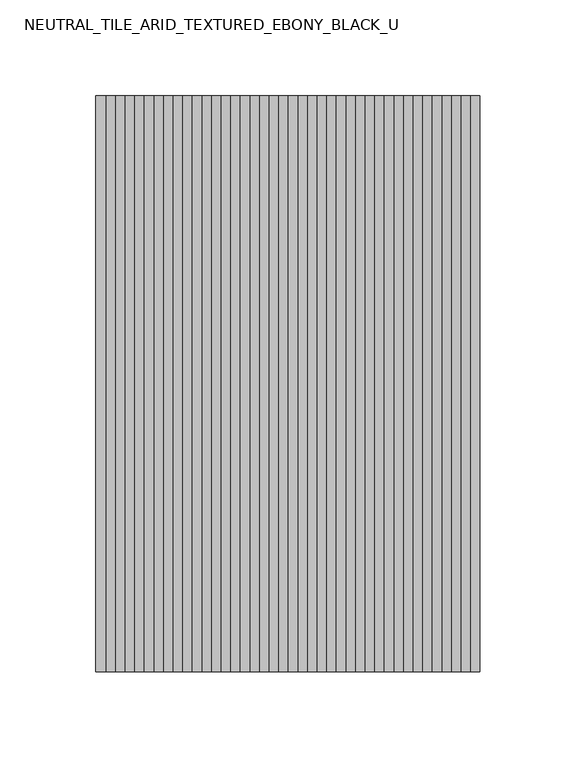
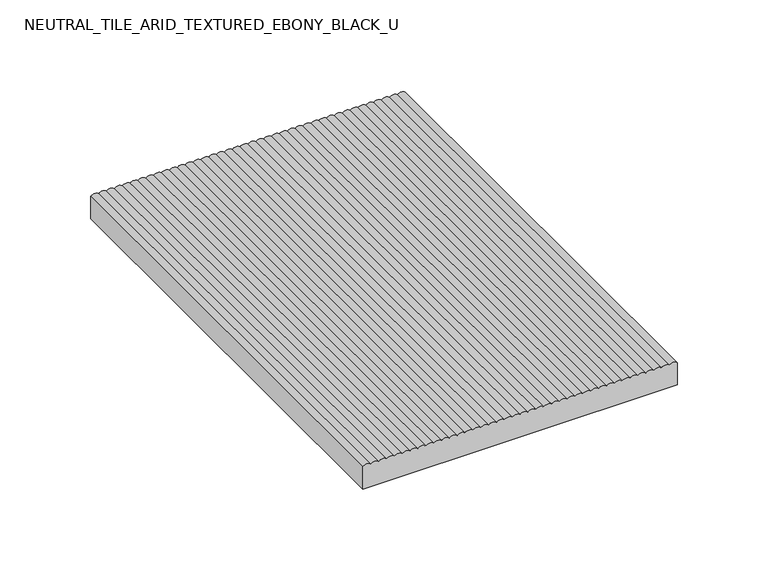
"""IFC4 building model written with IfcOpenShell, lengths in millimetres: light fixture geometry, BOVER_ARID_NEUTRAL_TILE_TEXTURED_USA : NEUTRAL_TILE_ARID_TEXTURED_EBONY_BLACK_U."""

from ifc_helpers import new_model, si_unit, point, frame, frame_2d, origin, place, context, project, spatial, polyline, circle_curve, trimmed, segment, composite_curve, outline, extrude, source, transform, mapped, element, save


def neutral_tile_arid_textured_ebony_black_u_b0ac42a1(model_context):
    return source(origin(), model_context, "Body", "SweptSolid", [
        extrude(outline(composite_curve([segment(polyline([(0.0, -100.0), (0.0, 100.0), (15.0, 100.0)]), True, "CONTINUOUS"), segment(trimmed(circle_curve(frame_2d((12.375, 97.5)), 3.625), [point((15.0, 100.0))], [point((15.0, 95.0))], False, "CARTESIAN"), True, "CONTINUOUS"), segment(trimmed(circle_curve(frame_2d((12.375, 92.5)), 3.625), [point((15.0, 95.0))], [point((15.0, 90.0))], False, "CARTESIAN"), True, "CONTINUOUS"), segment(trimmed(circle_curve(frame_2d((12.375, 87.5)), 3.625), [point((15.0, 90.0))], [point((15.0, 85.0))], False, "CARTESIAN"), True, "CONTINUOUS"), segment(trimmed(circle_curve(frame_2d((12.375, 82.5)), 3.625), [point((15.0, 85.0))], [point((15.0, 80.0))], False, "CARTESIAN"), True, "CONTINUOUS"), segment(trimmed(circle_curve(frame_2d((12.375, 77.5)), 3.625), [point((15.0, 80.0))], [point((15.0, 75.0))], False, "CARTESIAN"), True, "CONTINUOUS"), segment(trimmed(circle_curve(frame_2d((12.375, 72.5)), 3.625), [point((15.0, 75.0))], [point((15.0, 70.0))], False, "CARTESIAN"), True, "CONTINUOUS"), segment(trimmed(circle_curve(frame_2d((12.375, 67.5)), 3.625), [point((15.0, 70.0))], [point((15.0, 65.0))], False, "CARTESIAN"), True, "CONTINUOUS"), segment(trimmed(circle_curve(frame_2d((12.375, 62.5)), 3.625), [point((15.0, 65.0))], [point((15.0, 60.0))], False, "CARTESIAN"), True, "CONTINUOUS"), segment(trimmed(circle_curve(frame_2d((12.375, 57.5)), 3.625), [point((15.0, 60.0))], [point((15.0, 55.0))], False, "CARTESIAN"), True, "CONTINUOUS"), segment(trimmed(circle_curve(frame_2d((12.375, 52.5)), 3.625), [point((15.0, 55.0))], [point((15.0, 50.0))], False, "CARTESIAN"), True, "CONTINUOUS"), segment(trimmed(circle_curve(frame_2d((12.375, 47.5)), 3.625), [point((15.0, 50.0))], [point((15.0, 45.0))], False, "CARTESIAN"), True, "CONTINUOUS"), segment(trimmed(circle_curve(frame_2d((12.375, 42.5)), 3.625), [point((15.0, 45.0))], [point((15.0, 40.0))], False, "CARTESIAN"), True, "CONTINUOUS"), segment(trimmed(circle_curve(frame_2d((12.375, 37.5)), 3.625), [point((15.0, 40.0))], [point((15.0, 35.0))], False, "CARTESIAN"), True, "CONTINUOUS"), segment(trimmed(circle_curve(frame_2d((12.375, 32.5)), 3.625), [point((15.0, 35.0))], [point((15.0, 30.0))], False, "CARTESIAN"), True, "CONTINUOUS"), segment(trimmed(circle_curve(frame_2d((12.375, 27.5)), 3.625), [point((15.0, 30.0))], [point((15.0, 25.0))], False, "CARTESIAN"), True, "CONTINUOUS"), segment(trimmed(circle_curve(frame_2d((12.375, 22.5)), 3.625), [point((15.0, 25.0))], [point((15.0, 20.0))], False, "CARTESIAN"), True, "CONTINUOUS"), segment(trimmed(circle_curve(frame_2d((12.375, 17.5)), 3.625), [point((15.0, 20.0))], [point((15.0, 15.0))], False, "CARTESIAN"), True, "CONTINUOUS"), segment(trimmed(circle_curve(frame_2d((12.375, 12.5)), 3.625), [point((15.0, 15.0))], [point((15.0, 10.0))], False, "CARTESIAN"), True, "CONTINUOUS"), segment(trimmed(circle_curve(frame_2d((12.375, 7.5)), 3.625), [point((15.0, 10.0))], [point((15.0, 5.0))], False, "CARTESIAN"), True, "CONTINUOUS"), segment(trimmed(circle_curve(frame_2d((12.375, 2.5)), 3.625), [point((15.0, 5.0))], [point((15.0, 0.0))], False, "CARTESIAN"), True, "CONTINUOUS"), segment(trimmed(circle_curve(frame_2d((12.375, -2.5)), 3.625), [point((15.0, 0.0))], [point((15.0, -5.0))], False, "CARTESIAN"), True, "CONTINUOUS"), segment(trimmed(circle_curve(frame_2d((12.375, -7.5)), 3.625), [point((15.0, -5.0))], [point((15.0, -10.0))], False, "CARTESIAN"), True, "CONTINUOUS"), segment(trimmed(circle_curve(frame_2d((12.375, -12.5)), 3.625), [point((15.0, -10.0))], [point((15.0, -15.0))], False, "CARTESIAN"), True, "CONTINUOUS"), segment(trimmed(circle_curve(frame_2d((12.375, -17.5)), 3.625), [point((15.0, -15.0))], [point((15.0, -20.0))], False, "CARTESIAN"), True, "CONTINUOUS"), segment(trimmed(circle_curve(frame_2d((12.375, -22.5)), 3.625), [point((15.0, -20.0))], [point((15.0, -25.0))], False, "CARTESIAN"), True, "CONTINUOUS"), segment(trimmed(circle_curve(frame_2d((12.375, -27.5)), 3.625), [point((15.0, -25.0))], [point((15.0, -30.0))], False, "CARTESIAN"), True, "CONTINUOUS"), segment(trimmed(circle_curve(frame_2d((12.375, -32.5)), 3.625), [point((15.0, -30.0))], [point((15.0, -35.0))], False, "CARTESIAN"), True, "CONTINUOUS"), segment(trimmed(circle_curve(frame_2d((12.375, -37.5)), 3.625), [point((15.0, -35.0))], [point((15.0, -40.0))], False, "CARTESIAN"), True, "CONTINUOUS"), segment(trimmed(circle_curve(frame_2d((12.375, -42.5)), 3.625), [point((15.0, -40.0))], [point((15.0, -45.0))], False, "CARTESIAN"), True, "CONTINUOUS"), segment(trimmed(circle_curve(frame_2d((12.375, -47.5)), 3.625), [point((15.0, -45.0))], [point((15.0, -50.0))], False, "CARTESIAN"), True, "CONTINUOUS"), segment(trimmed(circle_curve(frame_2d((12.375, -52.5)), 3.625), [point((15.0, -50.0))], [point((15.0, -55.0))], False, "CARTESIAN"), True, "CONTINUOUS"), segment(trimmed(circle_curve(frame_2d((12.375, -57.5)), 3.625), [point((15.0, -55.0))], [point((15.0, -60.0))], False, "CARTESIAN"), True, "CONTINUOUS"), segment(trimmed(circle_curve(frame_2d((12.375, -62.5)), 3.625), [point((15.0, -60.0))], [point((15.0, -65.0))], False, "CARTESIAN"), True, "CONTINUOUS"), segment(trimmed(circle_curve(frame_2d((12.375, -67.5)), 3.625), [point((15.0, -65.0))], [point((15.0, -70.0))], False, "CARTESIAN"), True, "CONTINUOUS"), segment(trimmed(circle_curve(frame_2d((12.375, -72.5)), 3.625), [point((15.0, -70.0))], [point((15.0, -75.0))], False, "CARTESIAN"), True, "CONTINUOUS"), segment(trimmed(circle_curve(frame_2d((12.375, -77.5)), 3.625), [point((15.0, -75.0))], [point((15.0, -80.0))], False, "CARTESIAN"), True, "CONTINUOUS"), segment(trimmed(circle_curve(frame_2d((12.375, -82.5)), 3.625), [point((15.0, -80.0))], [point((15.0, -85.0))], False, "CARTESIAN"), True, "CONTINUOUS"), segment(trimmed(circle_curve(frame_2d((12.375, -87.5)), 3.625), [point((15.0, -85.0))], [point((15.0, -90.0))], False, "CARTESIAN"), True, "CONTINUOUS"), segment(trimmed(circle_curve(frame_2d((12.375, -92.5)), 3.625), [point((15.0, -90.0))], [point((15.0, -95.0))], False, "CARTESIAN"), True, "CONTINUOUS"), segment(trimmed(circle_curve(frame_2d((12.375, -97.5)), 3.625), [point((15.0, -95.0))], [point((15.0, -100.0))], False, "CARTESIAN"), True, "CONTINUOUS"), segment(polyline([(15.0, -100.0), (0.0, -100.0)]), True, "CONTINUOUS")], self_intersect=False)), frame((0.0, -150.0, 0.0), z_axis=(0.0, 1.0, 0.0), x_axis=(0.0, 0.0, 1.0)), (0.0, 0.0, 1.0), 300.0),
    ])


if __name__ == "__main__":
    model = new_model("IFC4")
    model_context = context("Model", 3, world=origin())
    ifc_project = project(units=[si_unit("LENGTHUNIT", "METRE", prefix="MILLI")], contexts=[model_context])
    site = spatial("IfcSite", under=ifc_project)
    building = spatial("IfcBuilding", under=site)
    placement = place(None, origin())
    neutral_tile_arid_textured_ebony_black_u_shape = neutral_tile_arid_textured_ebony_black_u_b0ac42a1(model_context)
    element("IfcLightFixture", 1, ObjectType="BOVER_ARID_NEUTRAL_TILE_TEXTURED_USA : NEUTRAL_TILE_ARID_TEXTURED_EBONY_BLACK_U", at=placement, inside=building, context=model_context, shape_type="MappedRepresentation", body=[
        mapped(neutral_tile_arid_textured_ebony_black_u_shape, transform((0.0, 0.0, 0.0), x_axis=(1.0, 0.0, 0.0), y_axis=(0.0, 1.0, 0.0), z_axis=(0.0, 0.0, 1.0))),
    ])
    save(model, "model.ifc")
